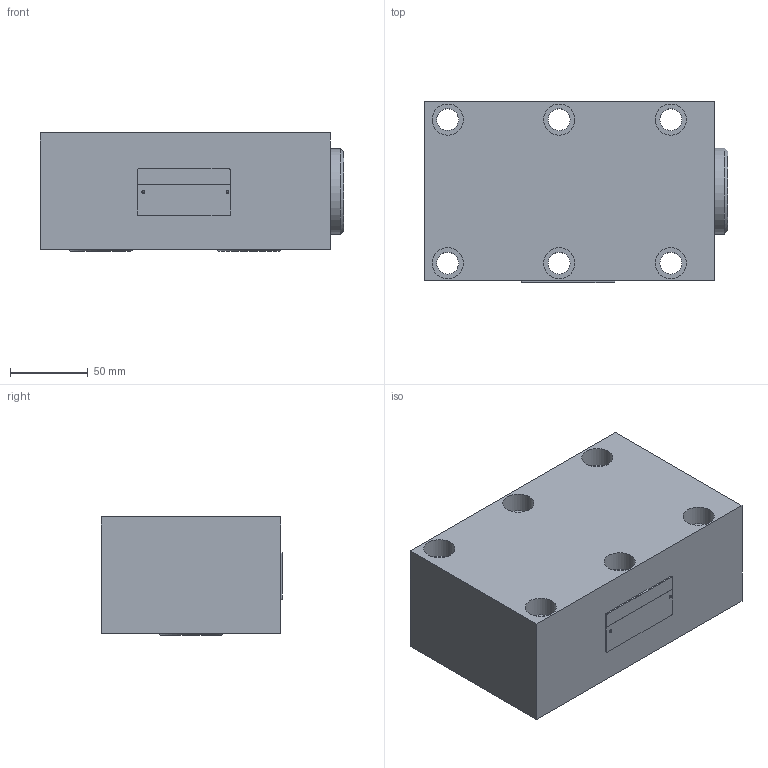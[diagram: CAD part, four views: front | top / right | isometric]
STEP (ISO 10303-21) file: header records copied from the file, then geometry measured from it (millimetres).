
FILE_DESCRIPTION(/* description */ (''),/* implementation_level */ '2;1');
FILE_NAME(/* name */ 'RVP30单向阀.prt.stp',/* time_stamp */ '2022-03-30T19:12:10+08:00',/* author */ (''),/* organization */ (''),/* preprocessor_version */ 'ST-DEVELOPER v16.7',/* originating_system */ 'SIEMENS PLM Software NX 12.0',/* authorisation */ '');
FILE_SCHEMA (('AUTOMOTIVE_DESIGN { 1 0 10303 214 3 1 1 1 }'));
Length unit declared in the file: millimetre
Products named in the file (1): RVP30单向阀
Bounding box: 194.48 x 116.1 x 75.73 mm (x, y, z)
Volume: 1530012 mm3; surface area: 142164.1 mm2
Topology: 6 solids, 7 shells, 96 faces, 225 edges, 150 vertices
Faces by surface type: plane 45, cylinder 36, cone 10, torus 3, bspline 2
Full cylindrical faces by diameter (mm): 1.8 x2, 1.9 x2, 14 x6, 18.262 x1, 20 x6, 30.049 x1, 31 x1, 41 x1, 47.849 x2, 50.049 x2, 55.08 x1, 64.049 x1
Entity records: 3952 total; most frequent: CARTESIAN_POINT 1927, DIRECTION 409, ORIENTED_EDGE 322, AXIS2_PLACEMENT_3D 171, EDGE_LOOP 161, EDGE_CURVE 161, VERTEX_POINT 132, FACE_BOUND 131
